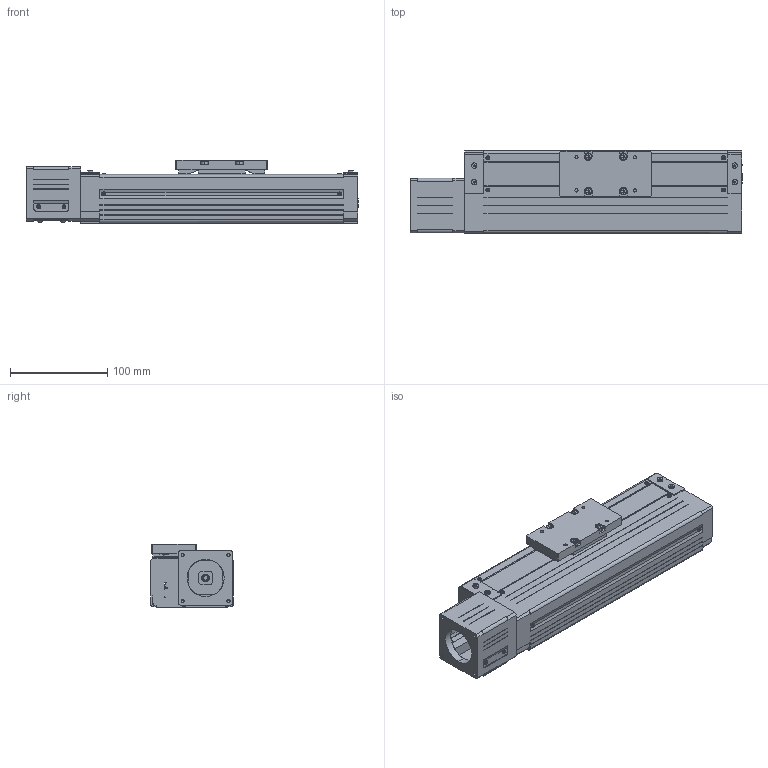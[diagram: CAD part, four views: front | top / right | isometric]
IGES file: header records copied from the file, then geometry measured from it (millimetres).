
Global section: file name: No Iges File Name specified; native system: AutoDesk Inventor R10; preprocessor: AutoDesk Inventor Iges Exporter R10; author: No Author specified; organization: No Organization specified; date: 20110701.171710; units: millimetre
Bounding box: 341 x 85 x 65 mm (x, y, z)
Surface area: 224034.4 mm2 (no closed solid volume)
Topology: 0 solids, 0 shells, 938 faces, 5766 edges, 5746 vertices
Faces by surface type: bspline 938
